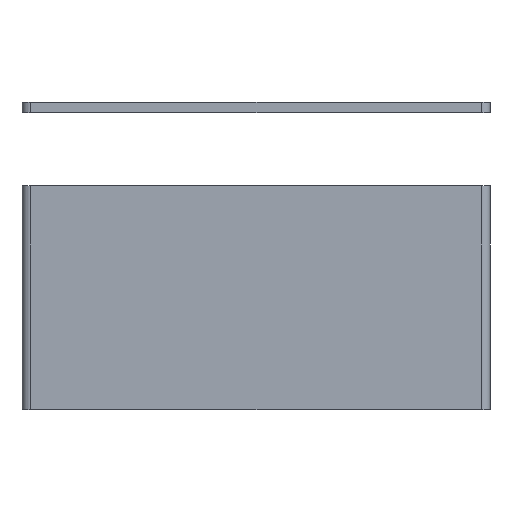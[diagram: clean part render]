
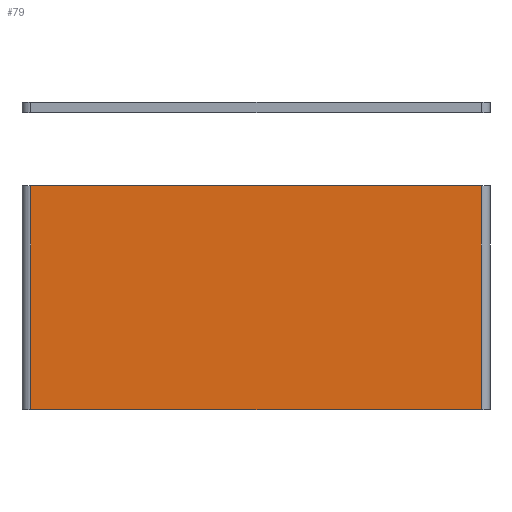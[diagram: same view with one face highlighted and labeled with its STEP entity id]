
A CAD part, left-side view. The second image highlights one B-rep face of the part: STEP entity #79.
In plain terms, the highlighted planar face has unit normal (-1, 0, 0).
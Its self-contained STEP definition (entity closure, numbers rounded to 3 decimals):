
#79 = ADVANCED_FACE('',(#80),#94,.F.);
#80 = FACE_BOUND('',#81,.F.);
#81 = EDGE_LOOP('',(#82,#117,#145,#173));
#82 = ORIENTED_EDGE('',*,*,#83,.F.);
#83 = EDGE_CURVE('',#84,#86,#88,.T.);
#84 = VERTEX_POINT('',#85);
#85 = CARTESIAN_POINT('',(0.,-157.,76.5));
#86 = VERTEX_POINT('',#87);
#87 = CARTESIAN_POINT('',(0.,-3.,76.5));
#88 = SURFACE_CURVE('',#89,(#93,#105),.PCURVE_S1.);
#89 = LINE('',#90,#91);
#90 = CARTESIAN_POINT('',(0.,-160.,76.5));
#91 = VECTOR('',#92,1.);
#92 = DIRECTION('',(0.,1.,0.));
#93 = PCURVE('',#94,#99);
#94 = PLANE('',#95);
#95 = AXIS2_PLACEMENT_3D('',#96,#97,#98);
#96 = CARTESIAN_POINT('',(0.,-160.,0.));
#97 = DIRECTION('',(1.,0.,0.));
#98 = DIRECTION('',(0.,0.,1.));
#99 = DEFINITIONAL_REPRESENTATION('',(#100),#104);
#100 = LINE('',#101,#102);
#101 = CARTESIAN_POINT('',(76.5,0.));
#102 = VECTOR('',#103,1.);
#103 = DIRECTION('',(0.,-1.));
#104 = ( GEOMETRIC_REPRESENTATION_CONTEXT(2) 
PARAMETRIC_REPRESENTATION_CONTEXT() REPRESENTATION_CONTEXT('2D SPACE',''
  ) );
#105 = PCURVE('',#106,#111);
#106 = PLANE('',#107);
#107 = AXIS2_PLACEMENT_3D('',#108,#109,#110);
#108 = CARTESIAN_POINT('',(0.,-160.,76.5));
#109 = DIRECTION('',(0.,0.,1.));
#110 = DIRECTION('',(1.,0.,0.));
#111 = DEFINITIONAL_REPRESENTATION('',(#112),#116);
#112 = LINE('',#113,#114);
#113 = CARTESIAN_POINT('',(0.,0.));
#114 = VECTOR('',#115,1.);
#115 = DIRECTION('',(0.,1.));
#116 = ( GEOMETRIC_REPRESENTATION_CONTEXT(2) 
PARAMETRIC_REPRESENTATION_CONTEXT() REPRESENTATION_CONTEXT('2D SPACE',''
  ) );
#117 = ORIENTED_EDGE('',*,*,#118,.F.);
#118 = EDGE_CURVE('',#119,#84,#121,.T.);
#119 = VERTEX_POINT('',#120);
#120 = CARTESIAN_POINT('',(0.,-157.,0.));
#121 = SURFACE_CURVE('',#122,(#126,#133),.PCURVE_S1.);
#122 = LINE('',#123,#124);
#123 = CARTESIAN_POINT('',(0.,-157.,0.));
#124 = VECTOR('',#125,1.);
#125 = DIRECTION('',(0.,0.,1.));
#126 = PCURVE('',#94,#127);
#127 = DEFINITIONAL_REPRESENTATION('',(#128),#132);
#128 = LINE('',#129,#130);
#129 = CARTESIAN_POINT('',(0.,-3.));
#130 = VECTOR('',#131,1.);
#131 = DIRECTION('',(1.,0.));
#132 = ( GEOMETRIC_REPRESENTATION_CONTEXT(2) 
PARAMETRIC_REPRESENTATION_CONTEXT() REPRESENTATION_CONTEXT('2D SPACE',''
  ) );
#133 = PCURVE('',#134,#139);
#134 = CYLINDRICAL_SURFACE('',#135,3.);
#135 = AXIS2_PLACEMENT_3D('',#136,#137,#138);
#136 = CARTESIAN_POINT('',(3.,-157.,0.));
#137 = DIRECTION('',(0.,0.,1.));
#138 = DIRECTION('',(-1.,-0.,0.));
#139 = DEFINITIONAL_REPRESENTATION('',(#140),#144);
#140 = LINE('',#141,#142);
#141 = CARTESIAN_POINT('',(0.,0.));
#142 = VECTOR('',#143,1.);
#143 = DIRECTION('',(0.,1.));
#144 = ( GEOMETRIC_REPRESENTATION_CONTEXT(2) 
PARAMETRIC_REPRESENTATION_CONTEXT() REPRESENTATION_CONTEXT('2D SPACE',''
  ) );
#145 = ORIENTED_EDGE('',*,*,#146,.T.);
#146 = EDGE_CURVE('',#119,#147,#149,.T.);
#147 = VERTEX_POINT('',#148);
#148 = CARTESIAN_POINT('',(0.,-3.,0.));
#149 = SURFACE_CURVE('',#150,(#154,#161),.PCURVE_S1.);
#150 = LINE('',#151,#152);
#151 = CARTESIAN_POINT('',(0.,-160.,0.));
#152 = VECTOR('',#153,1.);
#153 = DIRECTION('',(0.,1.,0.));
#154 = PCURVE('',#94,#155);
#155 = DEFINITIONAL_REPRESENTATION('',(#156),#160);
#156 = LINE('',#157,#158);
#157 = CARTESIAN_POINT('',(0.,0.));
#158 = VECTOR('',#159,1.);
#159 = DIRECTION('',(0.,-1.));
#160 = ( GEOMETRIC_REPRESENTATION_CONTEXT(2) 
PARAMETRIC_REPRESENTATION_CONTEXT() REPRESENTATION_CONTEXT('2D SPACE',''
  ) );
#161 = PCURVE('',#162,#167);
#162 = PLANE('',#163);
#163 = AXIS2_PLACEMENT_3D('',#164,#165,#166);
#164 = CARTESIAN_POINT('',(0.,-160.,0.));
#165 = DIRECTION('',(0.,0.,1.));
#166 = DIRECTION('',(1.,0.,0.));
#167 = DEFINITIONAL_REPRESENTATION('',(#168),#172);
#168 = LINE('',#169,#170);
#169 = CARTESIAN_POINT('',(0.,0.));
#170 = VECTOR('',#171,1.);
#171 = DIRECTION('',(0.,1.));
#172 = ( GEOMETRIC_REPRESENTATION_CONTEXT(2) 
PARAMETRIC_REPRESENTATION_CONTEXT() REPRESENTATION_CONTEXT('2D SPACE',''
  ) );
#173 = ORIENTED_EDGE('',*,*,#174,.T.);
#174 = EDGE_CURVE('',#147,#86,#175,.T.);
#175 = SURFACE_CURVE('',#176,(#180,#187),.PCURVE_S1.);
#176 = LINE('',#177,#178);
#177 = CARTESIAN_POINT('',(0.,-3.,0.));
#178 = VECTOR('',#179,1.);
#179 = DIRECTION('',(0.,0.,1.));
#180 = PCURVE('',#94,#181);
#181 = DEFINITIONAL_REPRESENTATION('',(#182),#186);
#182 = LINE('',#183,#184);
#183 = CARTESIAN_POINT('',(0.,-157.));
#184 = VECTOR('',#185,1.);
#185 = DIRECTION('',(1.,0.));
#186 = ( GEOMETRIC_REPRESENTATION_CONTEXT(2) 
PARAMETRIC_REPRESENTATION_CONTEXT() REPRESENTATION_CONTEXT('2D SPACE',''
  ) );
#187 = PCURVE('',#188,#193);
#188 = CYLINDRICAL_SURFACE('',#189,3.);
#189 = AXIS2_PLACEMENT_3D('',#190,#191,#192);
#190 = CARTESIAN_POINT('',(3.,-3.,0.));
#191 = DIRECTION('',(0.,0.,1.));
#192 = DIRECTION('',(-1.,-0.,0.));
#193 = DEFINITIONAL_REPRESENTATION('',(#194),#198);
#194 = LINE('',#195,#196);
#195 = CARTESIAN_POINT('',(-0.,0.));
#196 = VECTOR('',#197,1.);
#197 = DIRECTION('',(-0.,1.));
#198 = ( GEOMETRIC_REPRESENTATION_CONTEXT(2) 
PARAMETRIC_REPRESENTATION_CONTEXT() REPRESENTATION_CONTEXT('2D SPACE',''
  ) );
